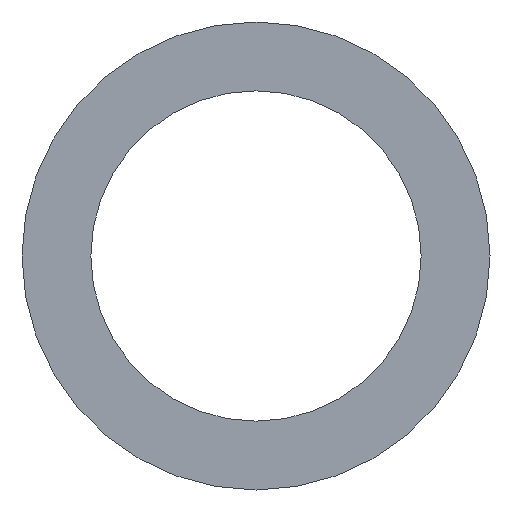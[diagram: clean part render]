
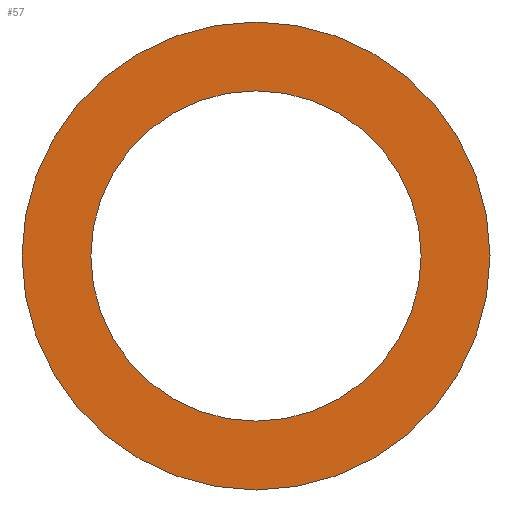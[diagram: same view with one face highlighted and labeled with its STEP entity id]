
A CAD part, left-side view. The second image highlights one B-rep face of the part: STEP entity #57.
In plain terms, the highlighted planar face has unit normal (-1, 0, 0).
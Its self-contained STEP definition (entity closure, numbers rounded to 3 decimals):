
#19=FACE_BOUND('',#30,.T.);
#23=FACE_OUTER_BOUND('',#29,.T.);
#29=EDGE_LOOP('',(#49));
#30=EDGE_LOOP('',(#50));
#35=CIRCLE('',#65,30.);
#36=CIRCLE('',#67,42.5);
#39=VERTEX_POINT('',#94);
#40=VERTEX_POINT('',#97);
#43=EDGE_CURVE('',#39,#39,#35,.T.);
#44=EDGE_CURVE('',#40,#40,#36,.T.);
#49=ORIENTED_EDGE('',*,*,#44,.F.);
#50=ORIENTED_EDGE('',*,*,#43,.T.);
#54=PLANE('',#66);
#57=ADVANCED_FACE('',(#23,#19),#54,.T.);
#65=AXIS2_PLACEMENT_3D('',#95,#79,#80);
#66=AXIS2_PLACEMENT_3D('',#96,#81,#82);
#67=AXIS2_PLACEMENT_3D('',#98,#83,#84);
#79=DIRECTION('center_axis',(1.,0.,0.));
#80=DIRECTION('ref_axis',(0.,0.,-1.));
#81=DIRECTION('center_axis',(-1.,0.,0.));
#82=DIRECTION('ref_axis',(0.,0.,1.));
#83=DIRECTION('center_axis',(1.,0.,0.));
#84=DIRECTION('ref_axis',(0.,0.,-1.));
#94=CARTESIAN_POINT('',(0.,30.,0.));
#95=CARTESIAN_POINT('Origin',(0.,0.,0.));
#96=CARTESIAN_POINT('Origin',(0.,42.5,0.));
#97=CARTESIAN_POINT('',(0.,42.5,0.));
#98=CARTESIAN_POINT('Origin',(0.,0.,0.));
